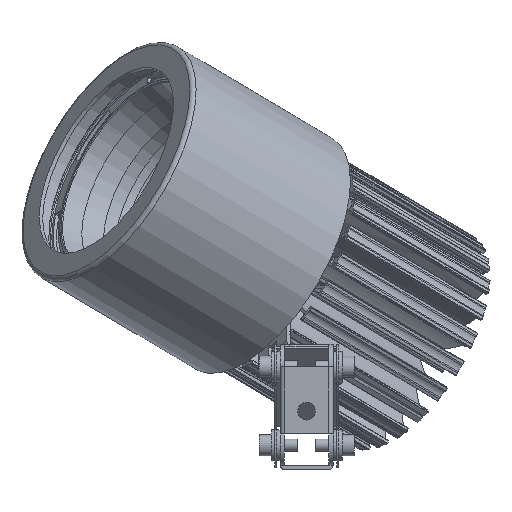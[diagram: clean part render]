
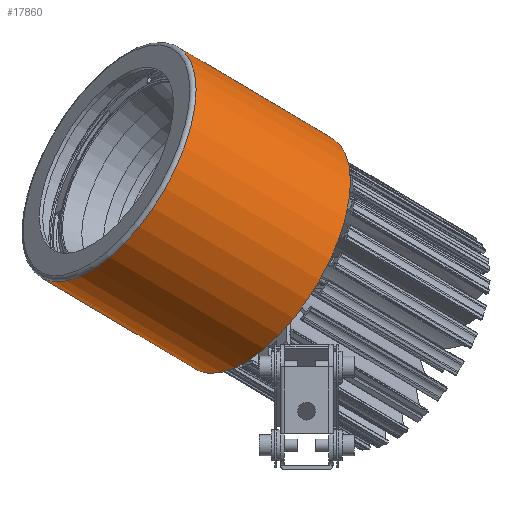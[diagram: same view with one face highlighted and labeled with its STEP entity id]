
A CAD part, front view. The second image highlights one B-rep face of the part: STEP entity #17860.
In plain terms, the highlighted cylindrical face has radius 60.6 mm (diameter 121.2 mm), a full revolution.
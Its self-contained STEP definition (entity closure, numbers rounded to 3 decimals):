
#277=CYLINDRICAL_SURFACE('',#19106,60.6);
#1208=FACE_OUTER_BOUND('',#2233,.T.);
#2233=EDGE_LOOP('',(#12810,#12811,#12812,#12813));
#3239=CIRCLE('',#19107,60.6);
#3240=CIRCLE('',#19108,60.6);
#4672=LINE('',#30071,#5933);
#5933=VECTOR('',#22221,60.6);
#7337=VERTEX_POINT('',#30068);
#7338=VERTEX_POINT('',#30070);
#9460=EDGE_CURVE('',#7337,#7337,#3239,.T.);
#9461=EDGE_CURVE('',#7337,#7338,#4672,.T.);
#9462=EDGE_CURVE('',#7338,#7338,#3240,.T.);
#12810=ORIENTED_EDGE('',*,*,#9460,.F.);
#12811=ORIENTED_EDGE('',*,*,#9461,.T.);
#12812=ORIENTED_EDGE('',*,*,#9462,.T.);
#12813=ORIENTED_EDGE('',*,*,#9461,.F.);
#17860=ADVANCED_FACE('',(#1208),#277,.T.);
#19106=AXIS2_PLACEMENT_3D('',#30067,#22217,#22218);
#19107=AXIS2_PLACEMENT_3D('',#30069,#22219,#22220);
#19108=AXIS2_PLACEMENT_3D('',#30072,#22222,#22223);
#22217=DIRECTION('center_axis',(-0.766,-0.455,0.455));
#22218=DIRECTION('ref_axis',(0.,-0.707,-0.707));
#22219=DIRECTION('center_axis',(-0.766,-0.455,0.455));
#22220=DIRECTION('ref_axis',(0.,-0.707,-0.707));
#22221=DIRECTION('',(0.766,0.455,-0.455));
#22222=DIRECTION('center_axis',(-0.766,-0.455,0.455));
#22223=DIRECTION('ref_axis',(0.,-0.707,-0.707));
#30067=CARTESIAN_POINT('Origin',(114.731,20.197,1154.075));
#30068=CARTESIAN_POINT('',(79.876,42.367,1217.606));
#30069=CARTESIAN_POINT('Origin',(79.876,-0.484,1174.756));
#30070=CARTESIAN_POINT('',(149.586,83.728,1176.245));
#30071=CARTESIAN_POINT('',(114.731,63.048,1196.926));
#30072=CARTESIAN_POINT('Origin',(149.586,40.878,1133.395));
